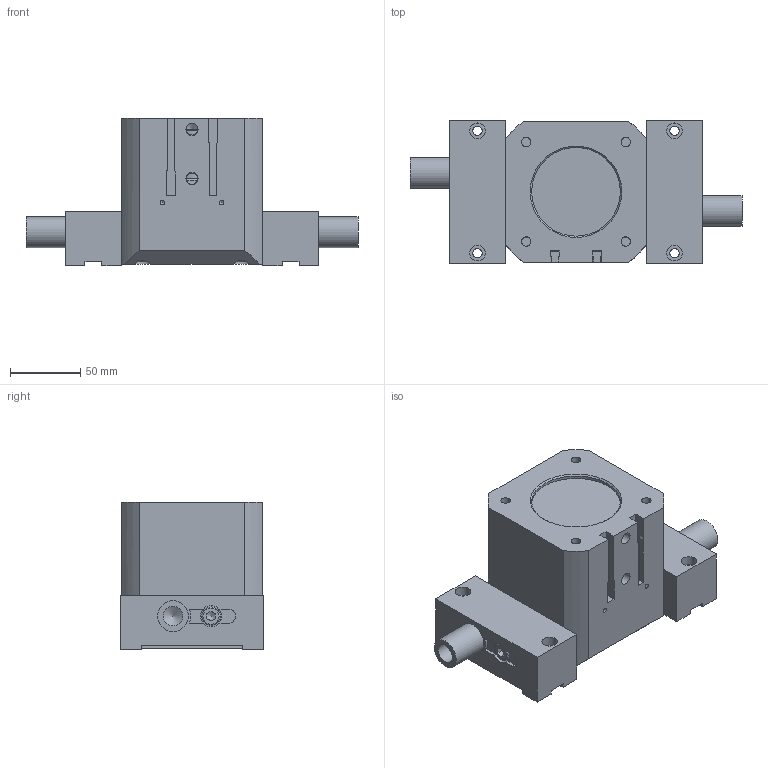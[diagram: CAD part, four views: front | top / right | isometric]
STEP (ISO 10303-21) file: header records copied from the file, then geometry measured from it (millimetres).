
FILE_DESCRIPTION((''),'2;1');
FILE_NAME('T:\CAD\Standard\Daten\3D-Datenbank\GP\4 - 3D-CAD-Daten GP 050-125\GP125\step-Daten\G-GP125-l2-GS+UB closed.stp','2013-11-07T13:41:14',('Dirk'),(''),'Autodesk Inventor 2011','Autodesk Inventor 2011','');
FILE_SCHEMA(('AUTOMOTIVE_DESIGN { 1 0 10303 214 1 1 1 1 }'));
Length unit declared in the file: millimetre
Products named in the file (1): Bauteil77
Bounding box: 235.89 x 102 x 105 mm (x, y, z)
Volume: 1137069.2 mm3; surface area: 195271.8 mm2
Topology: 1 solids, 17 shells, 415 faces, 1034 edges, 667 vertices
Faces by surface type: plane 236, cylinder 118, cone 36, torus 24, bspline 1
Full cylindrical faces by diameter (mm): 3.242 x2, 6.647 x10, 8 x6, 8.566 x2, 9 x6, 10.106 x1, 11 x4, 12 x1, 13 x7, 14 x2, 15 x8, 22 x6, 24 x1, 25 x7, 28 x1, 31.4 x2, 37 x2, 52 x1, 60 x2, 63 x1, 70.2 x1, 77.1 x2, 80 x5
Entity records: 12628 total; most frequent: CARTESIAN_POINT 3105, DIRECTION 1906, ORIENTED_EDGE 1652, EDGE_CURVE 826, AXIS2_PLACEMENT_3D 740, EDGE_LOOP 629, VERTEX_POINT 594, VECTOR 426
